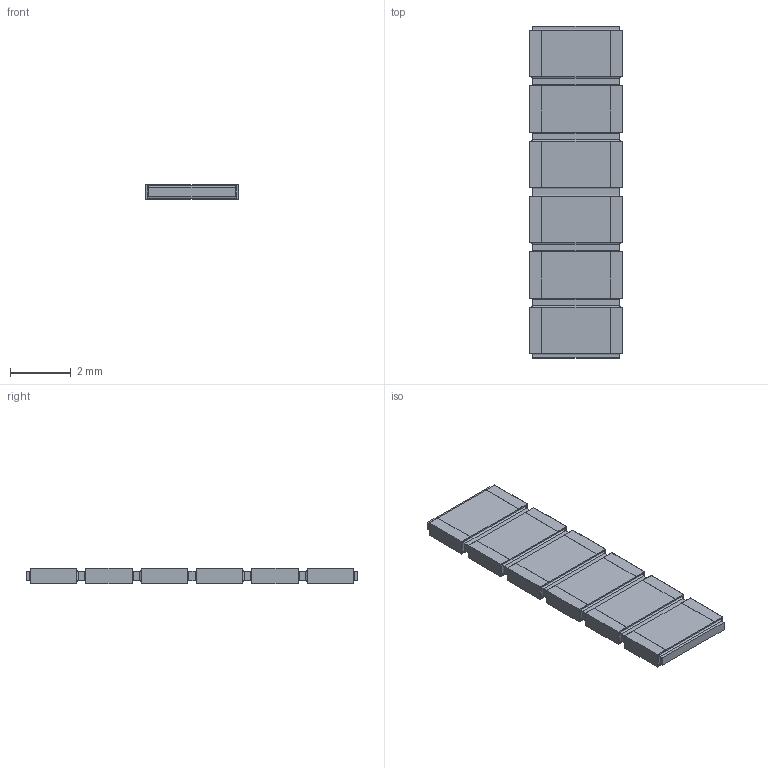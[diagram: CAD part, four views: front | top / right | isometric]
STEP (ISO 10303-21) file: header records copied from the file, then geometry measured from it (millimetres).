
FILE_DESCRIPTION(/* description */ (''),/* implementation_level */ '2;1');
FILE_NAME(/* name */ 'S:\DOCUMENT\AUTOCAD\3D_Modèles\10_3D-pour-VISHAY-COM\PRA\PRA182\PRA182-I2_à_I8\10_IGES\PRA182I6_B-or-N-or-G.stp',/* time_stamp */ '2017-12-18T15:18:58+01:00',/* author */ ('dparmentier'),/* organization */ ('unknown'),/* preprocessor_version */ 'ST-DEVELOPER v17',/* originating_system */ 'Autodesk Inventor 2018',/* authorisation */ '');
FILE_SCHEMA (('AUTOMOTIVE_DESIGN { 1 0 10303 214 3 1 1 }'));
Length unit declared in the file: millimetre
Products named in the file (1): PRA182I6_B-or-N-or-G
Bounding box: 3.06 x 10.95 x 0.5 mm (x, y, z)
Volume: 15.4 mm3; surface area: 131.5 mm2
Topology: 13 solids, 13 shells, 234 faces, 540 edges, 344 vertices
Faces by surface type: plane 186, cylinder 48
Entity records: 6509 total; most frequent: CARTESIAN_POINT 1119, ORIENTED_EDGE 1080, DIRECTION 1058, EDGE_CURVE 540, LINE 492, VECTOR 492, VERTEX_POINT 344, AXIS2_PLACEMENT_3D 283
